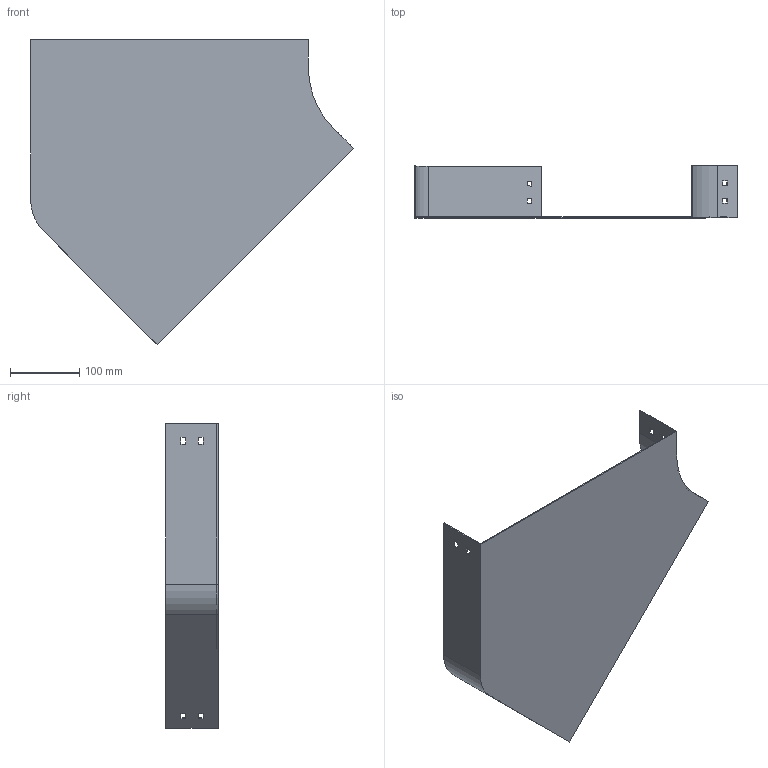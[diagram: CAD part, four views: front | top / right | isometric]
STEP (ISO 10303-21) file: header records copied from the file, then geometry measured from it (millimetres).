
FILE_DESCRIPTION (( 'STEP AP214' ), '1' );
FILE_NAME ('P4_407.step', '2025-07-16T09:19:36', ( '' ), ( '' ), 'SwSTEP 2.0', 'SolidWorks 2023', '' );
FILE_SCHEMA (( 'AUTOMOTIVE_DESIGN' ));
Length unit declared in the file: millimetre
Products named in the file (1): P4_407
Bounding box: 464.9 x 75 x 439.52 mm (x, y, z)
Volume: 285199.1 mm3; surface area: 383350.1 mm2
Topology: 1 solids, 1 shells, 50 faces, 144 edges, 96 vertices
Faces by surface type: plane 46, cylinder 4
Entity records: 1671 total; most frequent: CARTESIAN_POINT 291, ORIENTED_EDGE 288, DIRECTION 254, EDGE_CURVE 144, VECTOR 136, LINE 136, VERTEX_POINT 96, EDGE_LOOP 66
